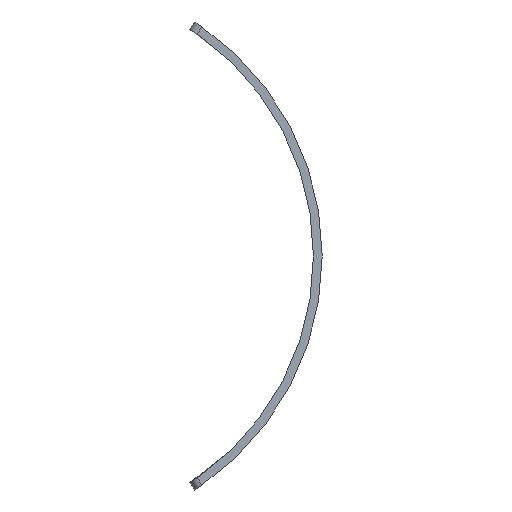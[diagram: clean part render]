
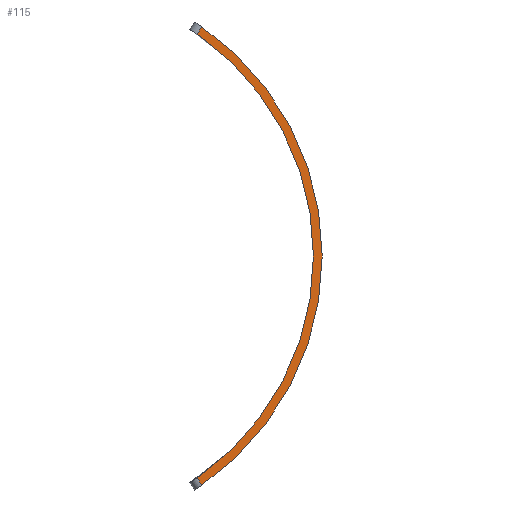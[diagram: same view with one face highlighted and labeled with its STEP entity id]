
A CAD part, front view. The second image highlights one B-rep face of the part: STEP entity #115.
In plain terms, the highlighted planar face has unit normal (0, -1, 0).
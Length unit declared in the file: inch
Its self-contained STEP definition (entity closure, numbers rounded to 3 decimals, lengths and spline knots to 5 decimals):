
#1 = EDGE_CURVE ( 'NONE', #140, #110, #319, .T. ) ;
#4 = FACE_OUTER_BOUND ( 'NONE', #522, .T. ) ;
#18 = ORIENTED_EDGE ( 'NONE', *, *, #202, .F. ) ;
#29 = ORIENTED_EDGE ( 'NONE', *, *, #233, .T. ) ;
#37 = CARTESIAN_POINT ( 'NONE',  ( 138.11415, 7., -26.28239 ) ) ;
#78 = DIRECTION ( 'NONE',  ( 0., 1., 0. ) ) ;
#79 = CARTESIAN_POINT ( 'NONE',  ( 120., 7., 0. ) ) ;
#82 = LINE ( 'NONE', #157, #117 ) ;
#93 = CIRCLE ( 'NONE', #439, 30.92 ) ;
#105 = ORIENTED_EDGE ( 'NONE', *, *, #1, .T. ) ;
#110 = VERTEX_POINT ( 'NONE', #37 ) ;
#115 = ADVANCED_FACE ( 'NONE', ( #4 ), #169, .T. ) ;
#117 = VECTOR ( 'NONE', #201, 39.37008 ) ;
#140 = VERTEX_POINT ( 'NONE', #295 ) ;
#153 = ORIENTED_EDGE ( 'NONE', *, *, #316, .T. ) ;
#154 = AXIS2_PLACEMENT_3D ( 'NONE', #282, #78, #332 ) ;
#157 = CARTESIAN_POINT ( 'NONE',  ( 120.84076, 7., -0.54141 ) ) ;
#160 = CIRCLE ( 'NONE', #154, 31.92 ) ;
#169 = PLANE ( 'NONE',  #503 ) ;
#171 = VERTEX_POINT ( 'NONE', #309 ) ;
#185 = DIRECTION ( 'NONE',  ( 0.541, 0., -0.841 ) ) ;
#200 = DIRECTION ( 'NONE',  ( 0., -1., 0. ) ) ;
#201 = DIRECTION ( 'NONE',  ( -0.541, 0., -0.841 ) ) ;
#202 = EDGE_CURVE ( 'NONE', #363, #110, #160, .T. ) ;
#233 = EDGE_CURVE ( 'NONE', #171, #140, #93, .T. ) ;
#237 = CARTESIAN_POINT ( 'NONE',  ( 120., 7., 0. ) ) ;
#256 = CARTESIAN_POINT ( 'NONE',  ( 138.11415, 7., 26.28239 ) ) ;
#282 = CARTESIAN_POINT ( 'NONE',  ( 120., 7., 0. ) ) ;
#295 = CARTESIAN_POINT ( 'NONE',  ( 137.57246, 7., -25.44121 ) ) ;
#308 = VECTOR ( 'NONE', #185, 39.37008 ) ;
#309 = CARTESIAN_POINT ( 'NONE',  ( 137.57246, 7., 25.44121 ) ) ;
#316 = EDGE_CURVE ( 'NONE', #363, #171, #82, .T. ) ;
#319 = LINE ( 'NONE', #537, #308 ) ;
#320 = DIRECTION ( 'NONE',  ( 0., 0., 1. ) ) ;
#332 = DIRECTION ( 'NONE',  ( 0., 0., 1. ) ) ;
#352 = DIRECTION ( 'NONE',  ( 0., 1., 0. ) ) ;
#363 = VERTEX_POINT ( 'NONE', #256 ) ;
#439 = AXIS2_PLACEMENT_3D ( 'NONE', #237, #352, #320 ) ;
#460 = DIRECTION ( 'NONE',  ( 0., 0., -1. ) ) ;
#503 = AXIS2_PLACEMENT_3D ( 'NONE', #79, #200, #460 ) ;
#522 = EDGE_LOOP ( 'NONE', ( #29, #105, #18, #153 ) ) ;
#537 = CARTESIAN_POINT ( 'NONE',  ( 120.84076, 7., 0.54141 ) ) ;
